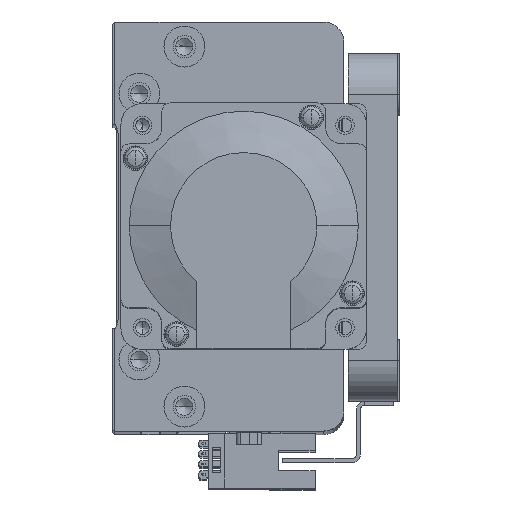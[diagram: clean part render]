
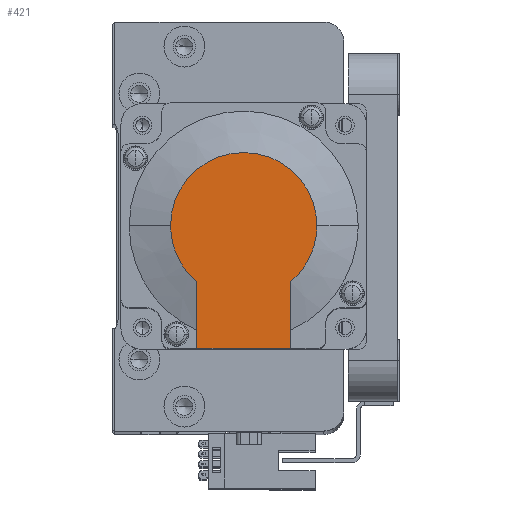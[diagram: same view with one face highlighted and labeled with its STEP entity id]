
A CAD part, top view. The second image highlights one B-rep face of the part: STEP entity #421.
In plain terms, the highlighted planar face has unit normal (0, 0, 1) as drawn and (-1, 0, 0) by its records, which use the part's own axes.
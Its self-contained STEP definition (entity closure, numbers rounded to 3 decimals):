
#421 = ADVANCED_FACE ( 'NONE', ( #46389 ), #24839, .T. ) ;
#789 = CARTESIAN_POINT ( 'NONE',  ( -118.5, 0., 11.45 ) ) ;
#1369 = CIRCLE ( 'NONE', #3358, 17.881 ) ;
#2784 = CARTESIAN_POINT ( 'NONE',  ( -118.5, 13.735, -11.45 ) ) ;
#3358 = AXIS2_PLACEMENT_3D ( 'NONE', #45839, #22119, #49784 ) ;
#3694 = VECTOR ( 'NONE', #40068, 1000. ) ;
#4602 = EDGE_CURVE ( 'NONE', #49877, #50991, #44948, .T. ) ;
#9751 = VECTOR ( 'NONE', #50117, 1000. ) ;
#9817 = CARTESIAN_POINT ( 'NONE',  ( -118.5, 0., 0. ) ) ;
#12040 = EDGE_LOOP ( 'NONE', ( #39018, #15101, #29118, #20140, #45708, #13588 ) ) ;
#12799 = EDGE_CURVE ( 'NONE', #47465, #49877, #13854, .T. ) ;
#13070 = CARTESIAN_POINT ( 'NONE',  ( -118.5, 30., 25. ) ) ;
#13588 = ORIENTED_EDGE ( 'NONE', *, *, #12799, .F. ) ;
#13854 = LINE ( 'NONE', #13070, #32621 ) ;
#13918 = DIRECTION ( 'NONE',  ( 0., 0., -1. ) ) ;
#15101 = ORIENTED_EDGE ( 'NONE', *, *, #45948, .T. ) ;
#15953 = CIRCLE ( 'NONE', #26427, 17.881 ) ;
#20140 = ORIENTED_EDGE ( 'NONE', *, *, #25129, .T. ) ;
#20476 = LINE ( 'NONE', #34241, #9751 ) ;
#21063 = EDGE_CURVE ( 'NONE', #47465, #49920, #20476, .T. ) ;
#22119 = DIRECTION ( 'NONE',  ( -1., 0., 0. ) ) ;
#22147 = EDGE_CURVE ( 'NONE', #42116, #45265, #1369, .T. ) ;
#23198 = CARTESIAN_POINT ( 'NONE',  ( -118.5, 0., 0. ) ) ;
#23357 = DIRECTION ( 'NONE',  ( -1., 0., 0. ) ) ;
#23366 = CARTESIAN_POINT ( 'NONE',  ( -118.5, -8.941, 0. ) ) ;
#23478 = DIRECTION ( 'NONE',  ( 0., 0., 1. ) ) ;
#24839 = PLANE ( 'NONE',  #47889 ) ;
#25129 = EDGE_CURVE ( 'NONE', #45265, #50991, #15953, .T. ) ;
#25506 = CARTESIAN_POINT ( 'NONE',  ( -118.5, 0., 17.881 ) ) ;
#25965 = CARTESIAN_POINT ( 'NONE',  ( -118.5, 30., 11.45 ) ) ;
#26427 = AXIS2_PLACEMENT_3D ( 'NONE', #9817, #37802, #13918 ) ;
#27157 = DIRECTION ( 'NONE',  ( 0., 0., -1. ) ) ;
#28447 = CARTESIAN_POINT ( 'NONE',  ( -118.5, 0., -17.881 ) ) ;
#29118 = ORIENTED_EDGE ( 'NONE', *, *, #22147, .T. ) ;
#32621 = VECTOR ( 'NONE', #48779, 1000. ) ;
#34241 = CARTESIAN_POINT ( 'NONE',  ( -118.5, -8.941, -11.45 ) ) ;
#37802 = DIRECTION ( 'NONE',  ( -1., 0., 0. ) ) ;
#38323 = AXIS2_PLACEMENT_3D ( 'NONE', #23198, #50803, #27157 ) ;
#39018 = ORIENTED_EDGE ( 'NONE', *, *, #21063, .T. ) ;
#40068 = DIRECTION ( 'NONE',  ( 0., -1., 0. ) ) ;
#42116 = VERTEX_POINT ( 'NONE', #28447 ) ;
#44115 = CIRCLE ( 'NONE', #38323, 17.881 ) ;
#44948 = LINE ( 'NONE', #789, #3694 ) ;
#45265 = VERTEX_POINT ( 'NONE', #25506 ) ;
#45708 = ORIENTED_EDGE ( 'NONE', *, *, #4602, .F. ) ;
#45839 = CARTESIAN_POINT ( 'NONE',  ( -118.5, 0., 0. ) ) ;
#45948 = EDGE_CURVE ( 'NONE', #49920, #42116, #44115, .T. ) ;
#46389 = FACE_OUTER_BOUND ( 'NONE', #12040, .T. ) ;
#47079 = CARTESIAN_POINT ( 'NONE',  ( -118.5, 30., -11.45 ) ) ;
#47465 = VERTEX_POINT ( 'NONE', #47079 ) ;
#47889 = AXIS2_PLACEMENT_3D ( 'NONE', #23366, #23357, #23478 ) ;
#48779 = DIRECTION ( 'NONE',  ( 0., 0., 1. ) ) ;
#49698 = CARTESIAN_POINT ( 'NONE',  ( -118.5, 13.735, 11.45 ) ) ;
#49784 = DIRECTION ( 'NONE',  ( 0., 0., -1. ) ) ;
#49877 = VERTEX_POINT ( 'NONE', #25965 ) ;
#49920 = VERTEX_POINT ( 'NONE', #2784 ) ;
#50117 = DIRECTION ( 'NONE',  ( 0., -1., 0. ) ) ;
#50803 = DIRECTION ( 'NONE',  ( -1., 0., 0. ) ) ;
#50991 = VERTEX_POINT ( 'NONE', #49698 ) ;
